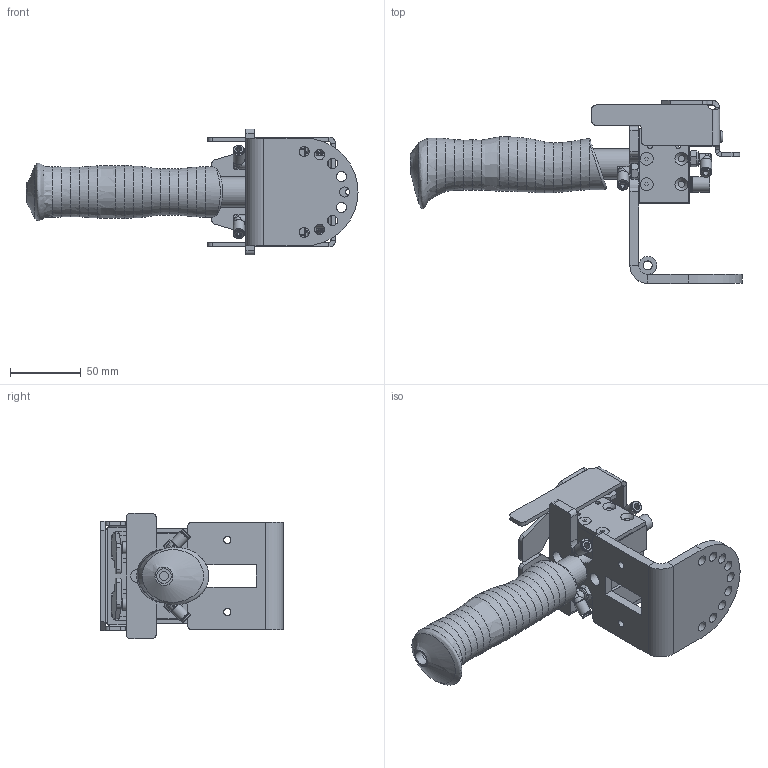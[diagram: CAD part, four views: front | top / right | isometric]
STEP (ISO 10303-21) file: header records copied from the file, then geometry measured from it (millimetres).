
FILE_DESCRIPTION(/* description */ (''),/* implementation_level */ '2;1');
FILE_NAME(/* name */ 'FDBPA9100.001.stp',/* time_stamp */ '2024-03-11T13:14:31-04:00',/* author */ (''),/* organization */ (''),/* preprocessor_version */ 'ST-DEVELOPER v18.102',/* originating_system */ 'SIEMENS PLM Software NX 2027',/* authorisation */ '');
FILE_SCHEMA (('AUTOMOTIVE_DESIGN { 1 0 10303 214 3 1 1 1 }'));
Length unit declared in the file: millimetre
Products named in the file (1): FDBPA9100.001
Bounding box: 234.95 x 129.38 x 88.9 mm (x, y, z)
Volume: 367318.7 mm3; surface area: 155235.6 mm2
Topology: 36 solids, 36 shells, 1263 faces, 3122 edges, 1965 vertices
Faces by surface type: plane 692, cylinder 364, cone 146, bspline 34, torus 14, sphere 10, revolution 2, extrusion 1
Full cylindrical faces by diameter (mm): 2.5 x4, 3 x4, 3.3 x2, 3.454 x10, 3.969 x2, 4 x4, 4.166 x4, 4.366 x2, 4.496 x8, 4.5 x8, 4.763 x1, 4.8 x8, 5.105 x2, 5.7 x2, 6.35 x4, 6.528 x1, 6.747 x4, 7.144 x9, 7.7 x4, 7.874 x2, 8.2 x4, 8.306 x4, 8.433 x6, 8.5 x2, 9.525 x2, 9.7 x2, 10.312 x1, 11 x2, 12.7 x2, 15.893 x1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
Entity records: 49855 total; most frequent: CARTESIAN_POINT 12039, DIRECTION 6075, ORIENTED_EDGE 5762, EDGE_CURVE 2881, AXIS2_PLACEMENT_3D 2275, VERTEX_POINT 1936, EDGE_LOOP 1613, VECTOR 1523
